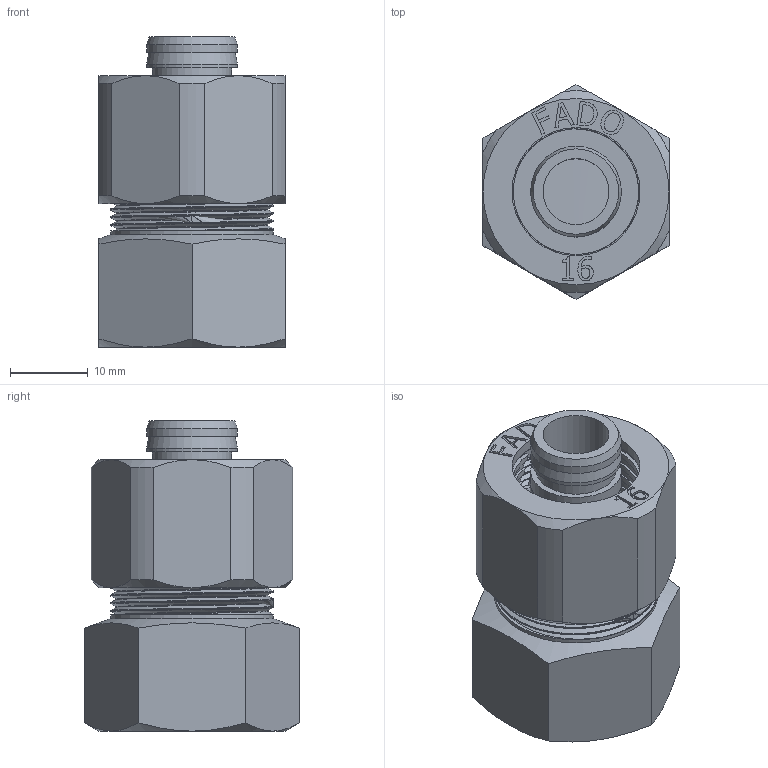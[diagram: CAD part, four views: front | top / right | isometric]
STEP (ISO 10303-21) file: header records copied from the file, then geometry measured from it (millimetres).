
FILE_DESCRIPTION(/* description */ (''),/* implementation_level */ '2;1');
FILE_NAME(/* name */ 'C:\Users\Doom\Desktop\Фадотех\Обжим\RFM11 16x0.5F 30.03.2020\RFM11 16x0.5F 30.03.2020.stp',/* time_stamp */ '2022-06-01T20:34:57+03:00',/* author */ ('Doom'),/* organization */ (''),/* preprocessor_version */ 'ST-DEVELOPER v18',/* originating_system */ 'Autodesk Inventor 2020',/* authorisation */ '');
FILE_SCHEMA (('AUTOMOTIVE_DESIGN { 1 0 10303 214 3 1 1 }'));
Length unit declared in the file: millimetre
Products named in the file (5): RFM11 16x0.5F 30.03.2020; RFM11 16x0.5F 30.03.2020_1; FADO MC Nut-16 15.02.2020; FADO MC Socket-16 15.02.2020; Olive 16 15.02.2020
Assembly tree (4 placements, depth 2):
  RFM11 16x0.5F 30.03.2020
    RFM11 16x0.5F 30.03.2020_1
    FADO MC Nut-16 15.02.2020
    FADO MC Socket-16 15.02.2020
    Olive 16 15.02.2020
Bounding box: 24 x 27.71 x 40 mm (x, y, z)
Volume: 9718.6 mm3; surface area: 15784.6 mm2
Topology: 7 solids, 7 shells, 521 faces, 1417 edges, 948 vertices
Faces by surface type: bspline 252, plane 148, cylinder 88, cone 33
Full cylindrical faces by diameter (mm): 8.5 x1, 10.2 x2, 11.7 x4, 12.6 x1, 14.7 x2, 15.5 x1, 16.5 x1, 18.176 x6, 19 x1, 19.5 x1, 19.517 x2, 19.867 x12, 20.867 x2, 21 x9, 21.35 x2
Entity records: 34077 total; most frequent: CARTESIAN_POINT 22501, ORIENTED_EDGE 2822, DIRECTION 1594, EDGE_CURVE 1411, VERTEX_POINT 945, B_SPLINE_CURVE_WITH_KNOTS 583, EDGE_LOOP 574, AXIS2_PLACEMENT_3D 534
